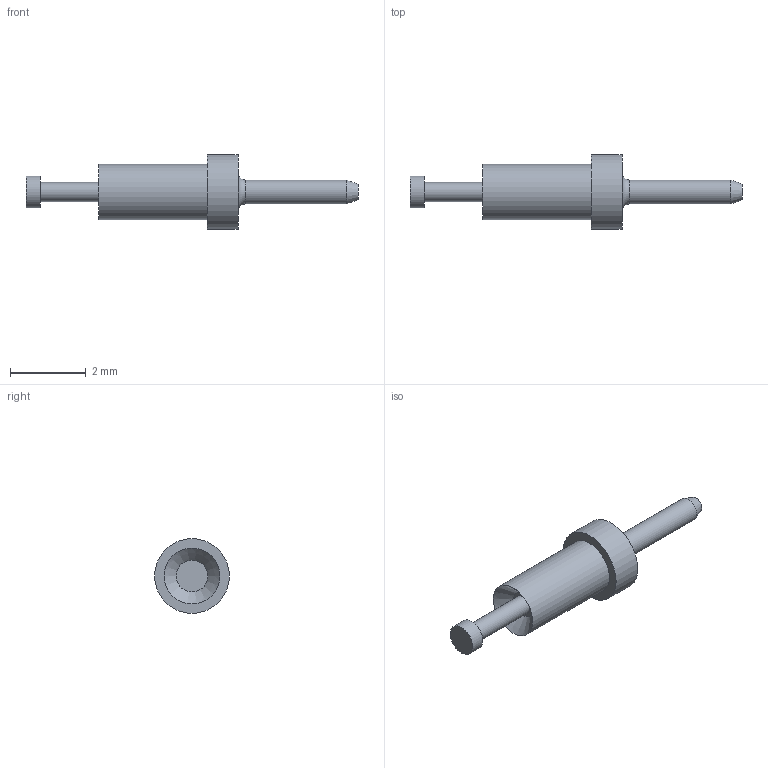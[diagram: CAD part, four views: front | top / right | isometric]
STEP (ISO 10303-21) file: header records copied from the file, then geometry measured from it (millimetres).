
FILE_DESCRIPTION(/* description */ (''),/* implementation_level */ '2;1');
FILE_NAME(/* name */ 'Z:\STEP folder\460320203.ipt.stp',/* time_stamp */ '2016-12-21T13:05:38+00:00',/* author */ ('Paul Karlsons'),/* organization */ (''),/* preprocessor_version */ 'ST-DEVELOPER v15.2',/* originating_system */ 'Autodesk Inventor 2014',/* authorisation */ '');
FILE_SCHEMA (('AUTOMOTIVE_DESIGN { 1 0 10303 214 3 1 1 }'));
Length unit declared in the file: millimetre
Products named in the file (1): 460320203
Bounding box: 8.79 x 1.98 x 1.98 mm (x, y, z)
Volume: 8.6 mm3; surface area: 35.7 mm2
Topology: 1 solids, 1 shells, 14 faces, 21 edges, 13 vertices
Faces by surface type: plane 6, cylinder 5, cone 2, torus 1
Full cylindrical faces by diameter (mm): 0.508 x1, 0.635 x1, 0.838 x1, 1.473 x1, 1.98 x1
Entity records: 295 total; most frequent: DIRECTION 56, CARTESIAN_POINT 41, AXIS2_PLACEMENT_3D 28, EDGE_LOOP 26, ORIENTED_EDGE 26, ADVANCED_FACE 14, FACE_BOUND 13, FACE_OUTER_BOUND 13
